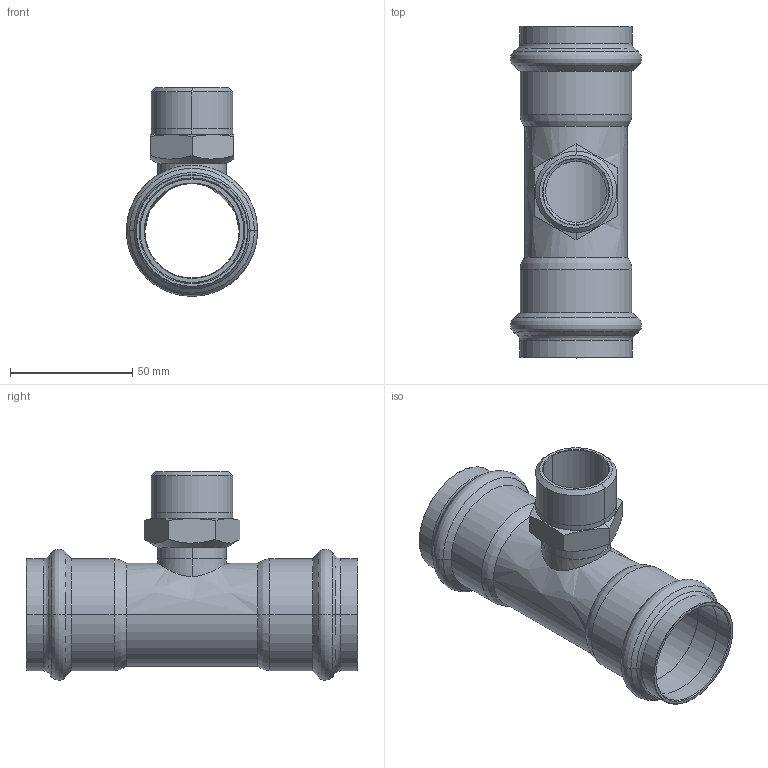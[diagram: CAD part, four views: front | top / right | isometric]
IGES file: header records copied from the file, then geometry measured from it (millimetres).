
Start section: Elysium IGES Interface
Global section: file name: C:\Users\Wallenburg\Desktop\3d modellen sudo\S-Pr VP\SP6132GV\6132GVW42142.igs; native system: CoCreate Modeling 17.00A  17-Jun-2010; preprocessor: CoCreate IGES_3D V2.2; author: Unknown; organization: Unknown; date: 20130123.164514; units: millimetre
Bounding box: 53.61 x 135.73 x 85.29 mm (x, y, z)
Volume: 50062.9 mm3; surface area: 45883.4 mm2
Topology: 1 solids, 1 shells, 114 faces, 247 edges, 136 vertices
Faces by surface type: bspline 114
